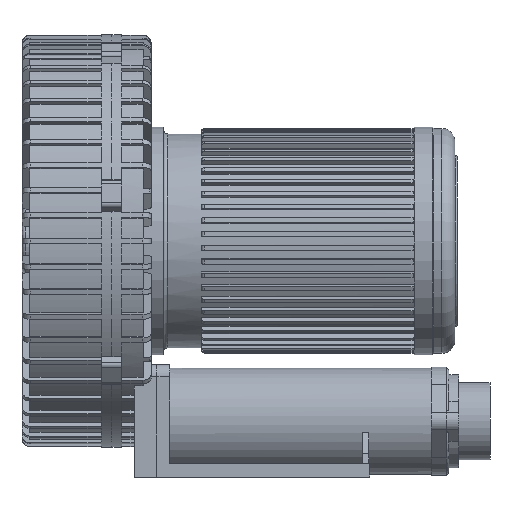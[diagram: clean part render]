
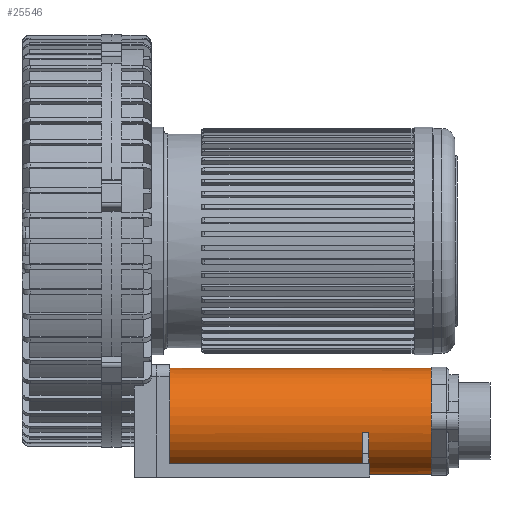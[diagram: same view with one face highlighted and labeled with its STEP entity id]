
A CAD part, left-side view. The second image highlights one B-rep face of the part: STEP entity #25546.
In plain terms, the highlighted cylindrical face has radius 61.88 mm (diameter 123.759 mm), a partial arc.
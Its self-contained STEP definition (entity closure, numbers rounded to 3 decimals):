
#3653=LINE('',#47509,#5505);
#3654=LINE('',#47514,#5506);
#3655=LINE('',#47518,#5507);
#3656=LINE('',#47522,#5508);
#3657=LINE('',#47526,#5509);
#3658=LINE('',#47527,#5510);
#3659=LINE('',#47531,#5511);
#3660=LINE('',#47535,#5512);
#3661=LINE('',#47539,#5513);
#3662=LINE('',#47540,#5514);
#5505=VECTOR('',#34014,1000.);
#5506=VECTOR('',#34017,1000.);
#5507=VECTOR('',#34020,1000.);
#5508=VECTOR('',#34023,1000.);
#5509=VECTOR('',#34026,1000.);
#5510=VECTOR('',#34027,1000.);
#5511=VECTOR('',#34030,1000.);
#5512=VECTOR('',#34033,1000.);
#5513=VECTOR('',#34036,1000.);
#5514=VECTOR('',#34037,1000.);
#12739=ORIENTED_EDGE('',*,*,#17018,.F.);
#12740=ORIENTED_EDGE('',*,*,#17019,.T.);
#12741=ORIENTED_EDGE('',*,*,#17020,.T.);
#12742=ORIENTED_EDGE('',*,*,#17021,.F.);
#12743=ORIENTED_EDGE('',*,*,#17022,.F.);
#12744=ORIENTED_EDGE('',*,*,#17023,.T.);
#12745=ORIENTED_EDGE('',*,*,#17024,.F.);
#12746=ORIENTED_EDGE('',*,*,#17025,.F.);
#12747=ORIENTED_EDGE('',*,*,#17026,.F.);
#12748=ORIENTED_EDGE('',*,*,#16993,.T.);
#12749=ORIENTED_EDGE('',*,*,#17027,.F.);
#12750=ORIENTED_EDGE('',*,*,#17028,.F.);
#12751=ORIENTED_EDGE('',*,*,#17029,.F.);
#12752=ORIENTED_EDGE('',*,*,#17030,.F.);
#12753=ORIENTED_EDGE('',*,*,#17031,.F.);
#12754=ORIENTED_EDGE('',*,*,#17032,.F.);
#12755=ORIENTED_EDGE('',*,*,#17033,.F.);
#12756=ORIENTED_EDGE('',*,*,#17005,.T.);
#12757=ORIENTED_EDGE('',*,*,#17034,.T.);
#12758=ORIENTED_EDGE('',*,*,#17035,.F.);
#16993=EDGE_CURVE('',#19717,#19716,#20954,.T.);
#17005=EDGE_CURVE('',#19726,#19724,#20956,.T.);
#17018=EDGE_CURVE('',#19736,#19737,#3653,.F.);
#17019=EDGE_CURVE('',#19736,#19738,#20961,.F.);
#17020=EDGE_CURVE('',#19738,#19739,#3654,.T.);
#17021=EDGE_CURVE('',#19740,#19739,#20962,.F.);
#17022=EDGE_CURVE('',#19741,#19740,#3655,.F.);
#17023=EDGE_CURVE('',#19741,#19742,#20963,.F.);
#17024=EDGE_CURVE('',#19743,#19742,#3656,.T.);
#17025=EDGE_CURVE('',#19744,#19743,#20964,.F.);
#17026=EDGE_CURVE('',#19717,#19744,#3657,.T.);
#17027=EDGE_CURVE('',#19745,#19716,#3658,.F.);
#17028=EDGE_CURVE('',#19746,#19745,#20965,.T.);
#17029=EDGE_CURVE('',#19747,#19746,#3659,.T.);
#17030=EDGE_CURVE('',#19748,#19747,#20966,.F.);
#17031=EDGE_CURVE('',#19749,#19748,#3660,.F.);
#17032=EDGE_CURVE('',#19750,#19749,#20967,.T.);
#17033=EDGE_CURVE('',#19726,#19750,#3661,.T.);
#17034=EDGE_CURVE('',#19724,#19751,#3662,.T.);
#17035=EDGE_CURVE('',#19737,#19751,#20968,.F.);
#19716=VERTEX_POINT('',#47457);
#19717=VERTEX_POINT('',#47459);
#19724=VERTEX_POINT('',#47481);
#19726=VERTEX_POINT('',#47484);
#19736=VERTEX_POINT('',#47510);
#19737=VERTEX_POINT('',#47511);
#19738=VERTEX_POINT('',#47513);
#19739=VERTEX_POINT('',#47515);
#19740=VERTEX_POINT('',#47517);
#19741=VERTEX_POINT('',#47519);
#19742=VERTEX_POINT('',#47521);
#19743=VERTEX_POINT('',#47523);
#19744=VERTEX_POINT('',#47525);
#19745=VERTEX_POINT('',#47528);
#19746=VERTEX_POINT('',#47530);
#19747=VERTEX_POINT('',#47532);
#19748=VERTEX_POINT('',#47534);
#19749=VERTEX_POINT('',#47536);
#19750=VERTEX_POINT('',#47538);
#19751=VERTEX_POINT('',#47541);
#20954=CIRCLE('',#27819,61.88);
#20956=CIRCLE('',#27825,61.88);
#20961=CIRCLE('',#27833,61.88);
#20962=CIRCLE('',#27834,61.88);
#20963=CIRCLE('',#27835,61.88);
#20964=CIRCLE('',#27836,61.88);
#20965=CIRCLE('',#27837,61.88);
#20966=CIRCLE('',#27838,61.88);
#20967=CIRCLE('',#27839,61.88);
#20968=CIRCLE('',#27840,61.88);
#22385=EDGE_LOOP('',(#12739,#12740,#12741,#12742,#12743,#12744,#12745,#12746,
#12747,#12748,#12749,#12750,#12751,#12752,#12753,#12754,#12755,#12756,#12757,
#12758));
#23858=FACE_BOUND('',#22385,.T.);
#24266=CYLINDRICAL_SURFACE('',#27832,61.88);
#25546=ADVANCED_FACE('',(#23858),#24266,.T.);
#27819=AXIS2_PLACEMENT_3D('',#47458,#33968,#33969);
#27825=AXIS2_PLACEMENT_3D('',#47483,#33990,#33991);
#27832=AXIS2_PLACEMENT_3D('',#47508,#34012,#34013);
#27833=AXIS2_PLACEMENT_3D('',#47512,#34015,#34016);
#27834=AXIS2_PLACEMENT_3D('',#47516,#34018,#34019);
#27835=AXIS2_PLACEMENT_3D('',#47520,#34021,#34022);
#27836=AXIS2_PLACEMENT_3D('',#47524,#34024,#34025);
#27837=AXIS2_PLACEMENT_3D('',#47529,#34028,#34029);
#27838=AXIS2_PLACEMENT_3D('',#47533,#34031,#34032);
#27839=AXIS2_PLACEMENT_3D('',#47537,#34034,#34035);
#27840=AXIS2_PLACEMENT_3D('',#47542,#34038,#34039);
#33968=DIRECTION('',(0.,-1.,0.));
#33969=DIRECTION('',(-1.,0.,0.));
#33990=DIRECTION('',(0.,-1.,0.));
#33991=DIRECTION('',(1.,0.,0.));
#34012=DIRECTION('',(0.,-1.,0.));
#34013=DIRECTION('',(1.,0.,0.));
#34014=DIRECTION('',(0.,-1.,0.));
#34015=DIRECTION('',(0.,-1.,0.));
#34016=DIRECTION('',(1.,0.,0.));
#34017=DIRECTION('',(0.,-1.,0.));
#34018=DIRECTION('',(0.,-1.,0.));
#34019=DIRECTION('',(1.,0.,0.));
#34020=DIRECTION('',(0.,-1.,0.));
#34021=DIRECTION('',(0.,1.,0.));
#34022=DIRECTION('',(-1.,0.,0.));
#34023=DIRECTION('',(0.,-1.,0.));
#34024=DIRECTION('',(0.,-1.,0.));
#34025=DIRECTION('',(0.,0.,-1.));
#34026=DIRECTION('',(0.,-1.,0.));
#34027=DIRECTION('',(0.,-1.,0.));
#34028=DIRECTION('',(0.,-1.,0.));
#34029=DIRECTION('',(1.,0.,0.));
#34030=DIRECTION('',(0.,-1.,0.));
#34031=DIRECTION('',(0.,1.,0.));
#34032=DIRECTION('',(0.,0.,1.));
#34033=DIRECTION('',(0.,-1.,0.));
#34034=DIRECTION('',(0.,-1.,0.));
#34035=DIRECTION('',(1.,0.,0.));
#34036=DIRECTION('',(0.,-1.,0.));
#34037=DIRECTION('',(0.,-1.,0.));
#34038=DIRECTION('',(0.,-1.,0.));
#34039=DIRECTION('',(0.,0.,-1.));
#47457=CARTESIAN_POINT('',(-9.556,-130.591,-237.478));
#47458=CARTESIAN_POINT('',(-65.,-130.591,-210.));
#47459=CARTESIAN_POINT('',(-24.515,-130.591,-256.798));
#47481=CARTESIAN_POINT('',(-72.009,-156.971,-148.519));
#47483=CARTESIAN_POINT('',(-65.,-156.971,-210.));
#47484=CARTESIAN_POINT('',(-11.027,-156.971,-179.735));
#47508=CARTESIAN_POINT('',(-65.,-476.333,-210.));
#47509=CARTESIAN_POINT('',(-102.79,-476.333,-259.));
#47510=CARTESIAN_POINT('',(-102.79,-396.971,-259.));
#47511=CARTESIAN_POINT('',(-102.79,-171.971,-259.));
#47512=CARTESIAN_POINT('',(-65.,-396.971,-210.));
#47513=CARTESIAN_POINT('',(-125.425,-396.971,-223.337));
#47514=CARTESIAN_POINT('',(-125.425,-476.333,-223.337));
#47515=CARTESIAN_POINT('',(-125.425,-403.971,-223.337));
#47516=CARTESIAN_POINT('',(-65.,-403.971,-210.));
#47517=CARTESIAN_POINT('',(-102.79,-403.971,-259.));
#47518=CARTESIAN_POINT('',(-102.79,-476.333,-259.));
#47519=CARTESIAN_POINT('',(-102.79,-404.971,-259.));
#47520=CARTESIAN_POINT('',(-65.,-404.971,-210.));
#47521=CARTESIAN_POINT('',(-27.21,-404.971,-259.));
#47522=CARTESIAN_POINT('',(-27.21,-476.333,-259.));
#47523=CARTESIAN_POINT('',(-27.21,-171.971,-259.));
#47524=CARTESIAN_POINT('',(-65.,-171.971,-210.));
#47525=CARTESIAN_POINT('',(-24.515,-171.971,-256.798));
#47526=CARTESIAN_POINT('',(-24.515,-156.971,-256.798));
#47527=CARTESIAN_POINT('',(-9.556,-485.15,-237.478));
#47528=CARTESIAN_POINT('',(-9.556,-493.966,-237.478));
#47529=CARTESIAN_POINT('',(-65.,-493.966,-210.));
#47530=CARTESIAN_POINT('',(-65.042,-493.966,-271.88));
#47531=CARTESIAN_POINT('',(-65.042,-485.15,-271.88));
#47532=CARTESIAN_POINT('',(-65.042,-476.333,-271.88));
#47533=CARTESIAN_POINT('',(-65.,-476.333,-210.));
#47534=CARTESIAN_POINT('',(-63.014,-476.333,-148.152));
#47535=CARTESIAN_POINT('',(-63.014,-485.15,-148.152));
#47536=CARTESIAN_POINT('',(-63.014,-493.966,-148.152));
#47537=CARTESIAN_POINT('',(-65.,-493.966,-210.));
#47538=CARTESIAN_POINT('',(-11.027,-493.966,-179.735));
#47539=CARTESIAN_POINT('',(-11.027,-485.15,-179.735));
#47540=CARTESIAN_POINT('',(-72.009,-156.971,-148.519));
#47541=CARTESIAN_POINT('',(-72.009,-171.971,-148.519));
#47542=CARTESIAN_POINT('',(-65.,-171.971,-210.));
